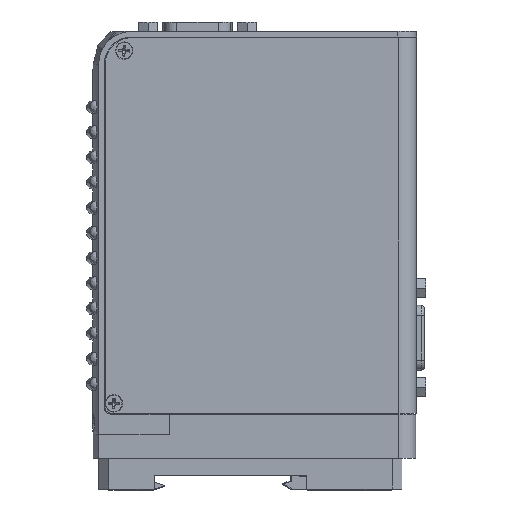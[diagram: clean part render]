
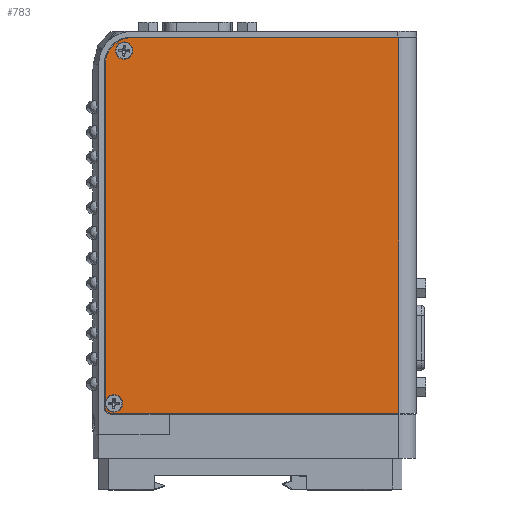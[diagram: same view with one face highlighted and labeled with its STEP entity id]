
A CAD part, top view. The second image highlights one B-rep face of the part: STEP entity #783.
In plain terms, the highlighted planar face has unit normal (0, 0, 1).
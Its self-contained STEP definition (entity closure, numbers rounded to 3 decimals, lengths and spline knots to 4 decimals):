
#783 = ADVANCED_FACE ( 'NONE', ( #121890, #130888, #4821 ), #100555, .F. ) ;
#2703 = DIRECTION ( 'NONE',  ( 1., 0., 0. ) ) ;
#2879 = CARTESIAN_POINT ( 'NONE',  ( 0.0324, 1.833, 3.3427 ) ) ;
#3114 = VECTOR ( 'NONE', #105031, 39.3701 ) ;
#3262 = CARTESIAN_POINT ( 'NONE',  ( -0.0286, 1.931, 3.3427 ) ) ;
#3948 = ORIENTED_EDGE ( 'NONE', *, *, #89810, .T. ) ;
#4821 = FACE_OUTER_BOUND ( 'NONE', #99428, .T. ) ;
#5018 = ORIENTED_EDGE ( 'NONE', *, *, #36327, .F. ) ;
#5088 = VERTEX_POINT ( 'NONE', #116838 ) ;
#7761 = DIRECTION ( 'NONE',  ( 0., 0., -1. ) ) ;
#8513 = CARTESIAN_POINT ( 'NONE',  ( 0.2394, 5.564, 3.3427 ) ) ;
#9960 = CARTESIAN_POINT ( 'NONE',  ( 2.8884, 5.564, 3.3427 ) ) ;
#12552 = EDGE_CURVE ( 'NONE', #21257, #85792, #81969, .T. ) ;
#13224 = DIRECTION ( 'NONE',  ( 1., 0., 0. ) ) ;
#15506 = CARTESIAN_POINT ( 'NONE',  ( -0.0306, 5.564, 3.3427 ) ) ;
#16966 = DIRECTION ( 'NONE',  ( 0., 0., -1. ) ) ;
#17971 = ORIENTED_EDGE ( 'NONE', *, *, #46002, .F. ) ;
#21257 = VERTEX_POINT ( 'NONE', #3262 ) ;
#22998 = VERTEX_POINT ( 'NONE', #8513 ) ;
#24026 = DIRECTION ( 'NONE',  ( 0., 0., -1. ) ) ;
#29237 = AXIS2_PLACEMENT_3D ( 'NONE', #61519, #7761, #31808 ) ;
#30994 = VECTOR ( 'NONE', #34955, 39.3701 ) ;
#31808 = DIRECTION ( 'NONE',  ( 1., 0., 0. ) ) ;
#34254 = AXIS2_PLACEMENT_3D ( 'NONE', #67542, #88852, #45498 ) ;
#34286 = VERTEX_POINT ( 'NONE', #48865 ) ;
#34433 = EDGE_LOOP ( 'NONE', ( #52602, #102659 ) ) ;
#34955 = DIRECTION ( 'NONE',  ( 1., 0., 0. ) ) ;
#36327 = EDGE_CURVE ( 'NONE', #60452, #5088, #78893, .T. ) ;
#37166 = CIRCLE ( 'NONE', #105261, 0.063 ) ;
#39397 = CARTESIAN_POINT ( 'NONE',  ( 0.2454, 5.435, 3.3427 ) ) ;
#41087 = DIRECTION ( 'NONE',  ( 0., 0., -1. ) ) ;
#41494 = ORIENTED_EDGE ( 'NONE', *, *, #133356, .F. ) ;
#43465 = CIRCLE ( 'NONE', #111712, 0.086 ) ;
#44477 = EDGE_CURVE ( 'NONE', #81238, #75186, #90999, .T. ) ;
#45498 = DIRECTION ( 'NONE',  ( -1., 0., 0. ) ) ;
#46002 = EDGE_CURVE ( 'NONE', #5088, #22998, #95695, .T. ) ;
#48431 = VERTEX_POINT ( 'NONE', #2879 ) ;
#48865 = CARTESIAN_POINT ( 'NONE',  ( 2.8884, 1.833, 3.3427 ) ) ;
#51664 = AXIS2_PLACEMENT_3D ( 'NONE', #135686, #24026, #94320 ) ;
#52602 = ORIENTED_EDGE ( 'NONE', *, *, #79374, .T. ) ;
#53025 = CARTESIAN_POINT ( 'NONE',  ( 0.0324, 1.896, 3.3427 ) ) ;
#55548 = VECTOR ( 'NONE', #100217, 39.3701 ) ;
#59616 = VERTEX_POINT ( 'NONE', #9960 ) ;
#60452 = VERTEX_POINT ( 'NONE', #95524 ) ;
#61495 = CARTESIAN_POINT ( 'NONE',  ( 0.1434, 1.931, 3.3427 ) ) ;
#61519 = CARTESIAN_POINT ( 'NONE',  ( 0.0574, 1.931, 3.3427 ) ) ;
#61713 = EDGE_CURVE ( 'NONE', #48431, #34286, #88626, .T. ) ;
#67542 = CARTESIAN_POINT ( 'NONE',  ( 2.8884, 5.564, 3.3427 ) ) ;
#70348 = ORIENTED_EDGE ( 'NONE', *, *, #61713, .T. ) ;
#71700 = CARTESIAN_POINT ( 'NONE',  ( 2.8884, 5.564, 3.3427 ) ) ;
#75186 = VERTEX_POINT ( 'NONE', #104437 ) ;
#75910 = CARTESIAN_POINT ( 'NONE',  ( 0.1594, 5.435, 3.3427 ) ) ;
#78893 = LINE ( 'NONE', #15506, #55548 ) ;
#79374 = EDGE_CURVE ( 'NONE', #85792, #21257, #43465, .T. ) ;
#79981 = LINE ( 'NONE', #71700, #126973 ) ;
#80928 = ORIENTED_EDGE ( 'NONE', *, *, #106820, .F. ) ;
#81238 = VERTEX_POINT ( 'NONE', #39397 ) ;
#81969 = CIRCLE ( 'NONE', #29237, 0.086 ) ;
#82418 = DIRECTION ( 'NONE',  ( 1., 0., 0. ) ) ;
#85792 = VERTEX_POINT ( 'NONE', #61495 ) ;
#88446 = ORIENTED_EDGE ( 'NONE', *, *, #44477, .T. ) ;
#88626 = LINE ( 'NONE', #107937, #30994 ) ;
#88852 = DIRECTION ( 'NONE',  ( 0., 0., -1. ) ) ;
#89810 = EDGE_CURVE ( 'NONE', #75186, #81238, #115099, .T. ) ;
#89994 = LINE ( 'NONE', #132023, #3114 ) ;
#90442 = EDGE_CURVE ( 'NONE', #22998, #59616, #89994, .T. ) ;
#90999 = CIRCLE ( 'NONE', #128381, 0.086 ) ;
#91006 = DIRECTION ( 'NONE',  ( 0., -1., 0. ) ) ;
#94320 = DIRECTION ( 'NONE',  ( -1., 0., 0. ) ) ;
#95016 = DIRECTION ( 'NONE',  ( 0., 0., -1. ) ) ;
#95524 = CARTESIAN_POINT ( 'NONE',  ( -0.0306, 1.896, 3.3427 ) ) ;
#95695 = CIRCLE ( 'NONE', #51664, 0.27 ) ;
#99428 = EDGE_LOOP ( 'NONE', ( #41494, #70348, #80928, #112241, #17971, #5018 ) ) ;
#100217 = DIRECTION ( 'NONE',  ( 0., 1., 0. ) ) ;
#100321 = DIRECTION ( 'NONE',  ( 1., 0., 0. ) ) ;
#100555 = PLANE ( 'NONE',  #34254 ) ;
#102659 = ORIENTED_EDGE ( 'NONE', *, *, #12552, .T. ) ;
#104437 = CARTESIAN_POINT ( 'NONE',  ( 0.0734, 5.435, 3.3427 ) ) ;
#105031 = DIRECTION ( 'NONE',  ( 1., 0., 0. ) ) ;
#105261 = AXIS2_PLACEMENT_3D ( 'NONE', #53025, #95016, #2703 ) ;
#106820 = EDGE_CURVE ( 'NONE', #59616, #34286, #79981, .T. ) ;
#107937 = CARTESIAN_POINT ( 'NONE',  ( 2.8884, 1.833, 3.3427 ) ) ;
#110782 = AXIS2_PLACEMENT_3D ( 'NONE', #75910, #117919, #13224 ) ;
#111712 = AXIS2_PLACEMENT_3D ( 'NONE', #132697, #16966, #100321 ) ;
#112241 = ORIENTED_EDGE ( 'NONE', *, *, #90442, .F. ) ;
#115099 = CIRCLE ( 'NONE', #110782, 0.086 ) ;
#116838 = CARTESIAN_POINT ( 'NONE',  ( -0.0306, 5.294, 3.3427 ) ) ;
#117919 = DIRECTION ( 'NONE',  ( 0., 0., -1. ) ) ;
#119136 = EDGE_LOOP ( 'NONE', ( #88446, #3948 ) ) ;
#121890 = FACE_BOUND ( 'NONE', #34433, .T. ) ;
#126973 = VECTOR ( 'NONE', #91006, 39.3701 ) ;
#128381 = AXIS2_PLACEMENT_3D ( 'NONE', #134135, #41087, #82418 ) ;
#130888 = FACE_BOUND ( 'NONE', #119136, .T. ) ;
#132023 = CARTESIAN_POINT ( 'NONE',  ( 3.0284, 5.564, 3.3427 ) ) ;
#132697 = CARTESIAN_POINT ( 'NONE',  ( 0.0574, 1.931, 3.3427 ) ) ;
#133356 = EDGE_CURVE ( 'NONE', #48431, #60452, #37166, .T. ) ;
#134135 = CARTESIAN_POINT ( 'NONE',  ( 0.1594, 5.435, 3.3427 ) ) ;
#135686 = CARTESIAN_POINT ( 'NONE',  ( 0.2394, 5.294, 3.3427 ) ) ;
